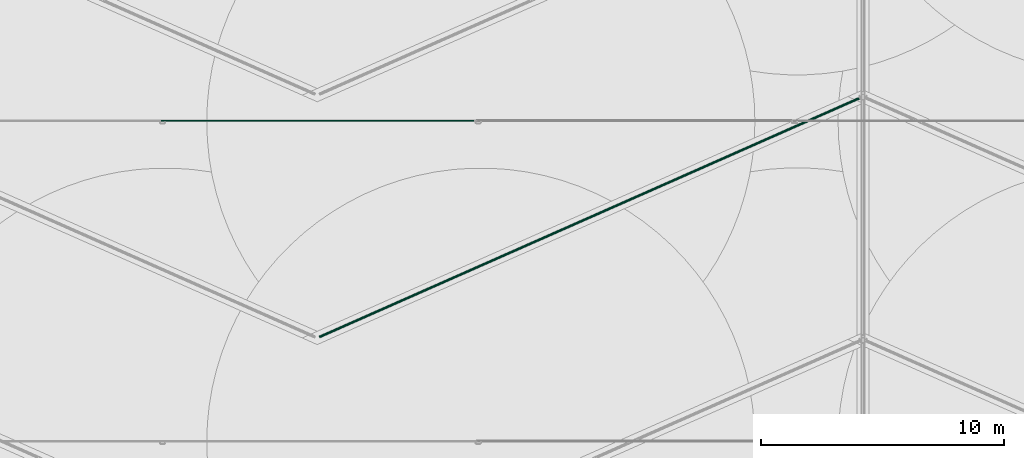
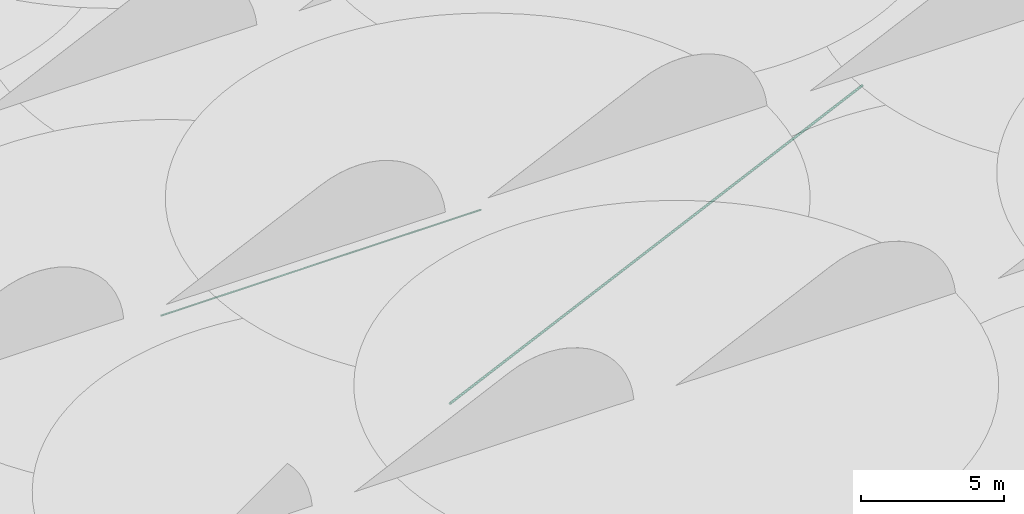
# One storey, part 35 of 166: 2 flow segments.
"""IFC2X3 building model written with IfcOpenShell, lengths in metres."""

from ifc_helpers import new_model, entity, si_unit, converted_unit, direction, frame, frame_2d, origin, place, context, subcontext, project, spatial, circle, extrude, type_object, element, save


model = new_model("IFC2X3")

# Units and contexts
model_context = context("Model", 3, precision=1e-05, world=origin(), true_north=direction((6.123233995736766e-17, 1.0)))
body_context = subcontext(model_context, "Body", "Model", "MODEL_VIEW")
ifc_project = project(units=[si_unit("LENGTHUNIT", "METRE"), converted_unit("PLANEANGLEUNIT", "DEGREE", entity("IfcPlaneAngleMeasure", 0.017453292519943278), si_unit("PLANEANGLEUNIT", "RADIAN"), dimensions=[0, 0, 0, 0, 0, 0, 0]), si_unit("AREAUNIT", "SQUARE_METRE")], contexts=[model_context])

# Site, building, storey
site_placement = place(None, origin())
site = spatial("IfcSite", under=ifc_project, at=site_placement, Name="Default", CompositionType="ELEMENT")
building_placement = place(site_placement, origin())
building = spatial("IfcBuilding", under=site, at=building_placement, Name="CASA DE ACOLHIDA PARA IDOSOS", CompositionType="ELEMENT")
storey_placement = place(building_placement, frame((0.0, 0.0, -1.7499999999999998)))
storey = spatial("IfcBuildingStorey", under=building, at=storey_placement, Name="IMPLANTAÇÃO DRENAGEM", CompositionType="ELEMENT", Elevation=-1.7499999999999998)

# Flow segments
pipe_segment_type_1 = type_object("IfcPipeSegmentType", Name="Tipos de tubos:PLUV_Tubo PEAD Corrugado", PredefinedType="NOTDEFINED")
flow_segment_1_placement = place(storey_placement, origin())
element("IfcFlowSegment", 1, at=flow_segment_1_placement, inside=storey, type_object=pipe_segment_type_1, Name="Tipos de tubos:PLUV_Tubo PEAD Corrugado", ObjectType="Tipos de tubos:PLUV_Tubo PEAD Corrugado", context=body_context, shape_type="SweptSolid", body=[
    extrude(circle(Radius=0.05, at=frame_2d((2.2091811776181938e-15, -5.713098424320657e-17), x_axis=(1.0, 0.0))), frame((22.968633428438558, 23.854942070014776, -1.0948), z_axis=(-0.9144899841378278, -0.40448495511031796, 0.009999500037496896), x_axis=(0.40450517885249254, -0.9145357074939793, 0.0)), (0.0, 0.0, 1.0), 24.48022857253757),
])
pipe_segment_type_2 = type_object("IfcPipeSegmentType", Name="Tipos de tubos:AF_Tubo Marrom Soldável", PredefinedType="NOTDEFINED")
flow_segment_2_placement = place(storey_placement, origin())
element("IfcFlowSegment", 2, at=flow_segment_2_placement, inside=storey, type_object=pipe_segment_type_2, Name="Tipos de tubos:AF_Tubo Marrom Soldável", ObjectType="Tipos de tubos:AF_Tubo Marrom Soldável", context=body_context, shape_type="SweptSolid", body=[
    extrude(circle(Radius=0.025, at=frame_2d((0.0, -2.707167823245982e-16), x_axis=(1.0, 0.0))), frame((-5.958348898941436, 22.854942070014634, -0.19999999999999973), z_axis=(1.0, 0.0, 0.0), x_axis=(0.0, -1.0, 0.0)), (0.0, 0.0, 1.0), 12.9348),
])

save(model, "model.ifc")
